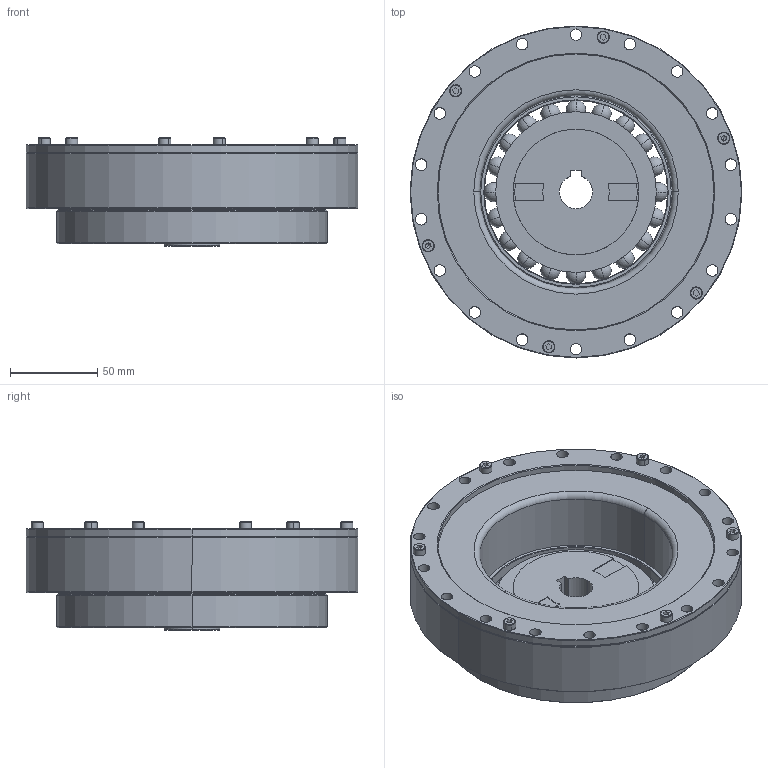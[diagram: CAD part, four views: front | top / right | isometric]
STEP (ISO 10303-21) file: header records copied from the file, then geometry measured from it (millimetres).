
FILE_DESCRIPTION (( 'STEP AP203' ), '1' );
FILE_NAME ('BHS-45-XXX-U-¢ò.STEP', '2019-01-15T05:55:26', ( 'User' ), ( 'China' ), 'SwSTEP 2.0', 'SolidWorks 2015', '' );
FILE_SCHEMA (( 'CONFIG_CONTROL_DESIGN' ));
Length unit declared in the file: millimetre
Products named in the file (1): BHS-45-XXX-U-ｊ
Bounding box: 190 x 190 x 62 mm (x, y, z)
Surface area: 170055.1 mm2 (no closed solid volume)
Topology: 0 solids, 29 shells, 398 faces, 1319 edges, 860 vertices
Faces by surface type: cylinder 174, plane 104, cone 66, sphere 40, torus 12, bspline 2
Entity records: 14811 total; most frequent: CARTESIAN_POINT 3698, DIRECTION 2412, ORIENTED_EDGE 2128, EDGE_CURVE 1207, AXIS2_PLACEMENT_3D 968, VERTEX_POINT 800, CIRCLE 571, EDGE_LOOP 510
